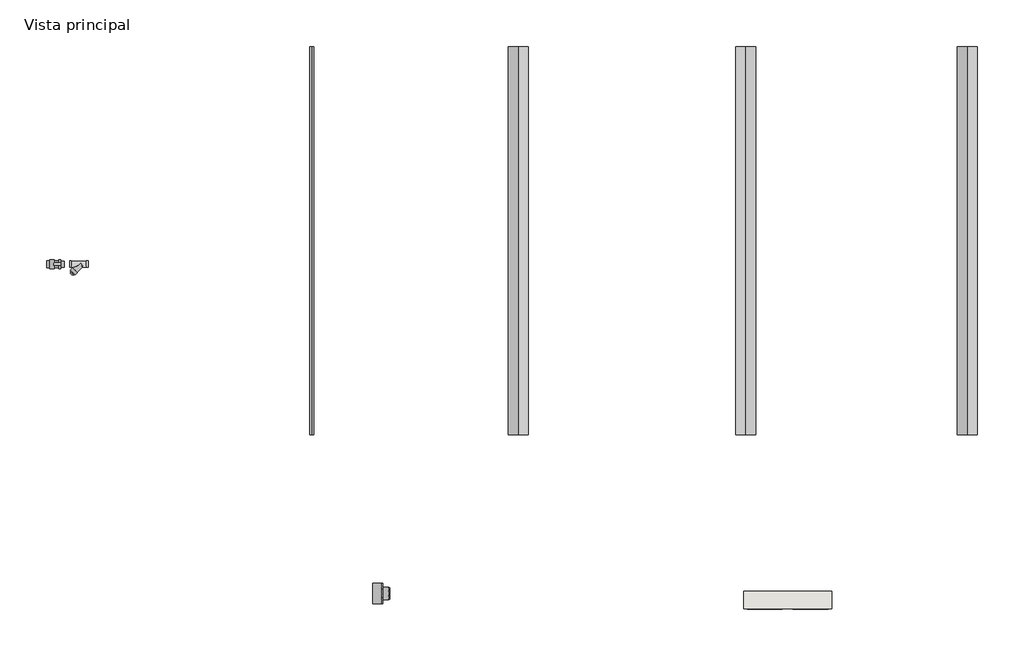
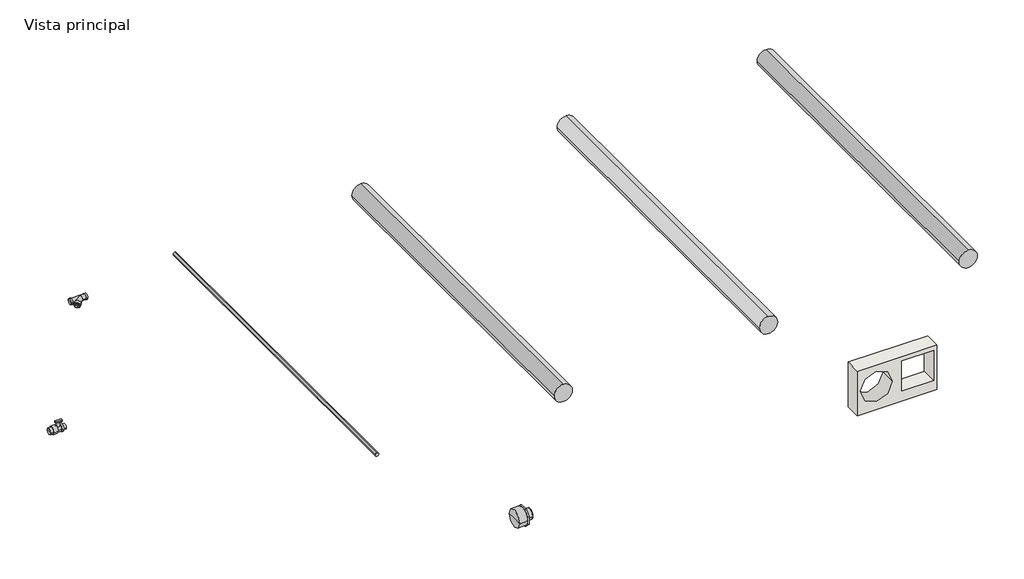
# One storey, incomplete: 4 pipe fittings, 4 pipe segments, 1 wall.
"""IFC4 building model written with IfcOpenShell, lengths in millimetres."""

from ifc_helpers import new_model, si_unit, point, frame, frame_2d, origin, place, context, project, spatial, polyline, circle_curve, trimmed, segment, composite_curve, outline, extrude, transform, mapped, element, save
from components import familia1_21bbc39e, familia1_964c2ff3, var_b961cbb1, var_9b378b9b

model = new_model("IFC4")

# Units and contexts
model_context = context("Model", 3, world=origin())
ifc_project = project(units=[si_unit("LENGTHUNIT", "METRE", prefix="MILLI")], contexts=[model_context])

# Site, building, storey
site = spatial("IfcSite", under=ifc_project)
building = spatial("IfcBuilding", under=site)
storey = spatial("IfcBuildingStorey", under=building, Name="Vista principal", Elevation=0.0)

# Pipe fittings
placement = place(None, origin())
familia1_shape = familia1_21bbc39e(model_context)
element("IfcPipeFitting", 1, ObjectType="AmancoWavin_Unionesdetubería_AguaPotableZNoUsarMulticonectorTanque : Familia1", at=placement, inside=storey, context=model_context, shape_type="MappedRepresentation", body=[
    mapped(familia1_shape, transform((-2490.847276, 159.7071053, 94.0), x_axis=(1.0, 0.0, 0.0), y_axis=(0.0, 1.0, 0.0), z_axis=(0.0, 0.0, 1.0))),
])
familia1_2_shape = familia1_964c2ff3(model_context)
element("IfcPipeFitting", 2, ObjectType="AmancoWavin_Unionesdetubería_AguaPotableZNoUsarFiltroTanque : Familia1", at=placement, inside=storey, context=model_context, shape_type="MappedRepresentation", body=[
    mapped(familia1_2_shape, transform((-2350.847276, 159.7071053, 910.65), x_axis=(-1.0, 0.0, 0.0), y_axis=(0.0, -1.0, 0.0), z_axis=(0.0, 0.0, 1.0))),
])
var_shape = var_b961cbb1(model_context)
element("IfcPipeFitting", 3, ObjectType="AmancoWavin_Unionesdetubería_AguaPotableZNoUsarReducer : Var.", at=placement, inside=storey, context=model_context, shape_type="MappedRepresentation", body=[
    mapped(var_shape, transform((-699.7544034, -1707.6024211, 1.0), x_axis=(1.0, 0.0, 0.0), y_axis=(0.0, -1.0, 0.0), z_axis=(0.0, 0.0, -1.0))),
])
var_2_shape = var_9b378b9b(model_context)
element("IfcPipeFitting", 4, ObjectType="AmancoWavin_Unionesdetubería_AguaPotableZNoUsarReducer : Var.", at=placement, inside=storey, context=model_context, shape_type="MappedRepresentation", body=[
    mapped(var_2_shape, transform((-640.9244034, -1707.6024211, 1.0), x_axis=(1.0, 0.0, 0.0), y_axis=(0.0, -1.0, 0.0), z_axis=(0.0, 0.0, -1.0))),
])

# Pipe segments
element("IfcPipeSegment", 5, ObjectType="AmancoWavin_Tuberias_AguaPotablePVC_SDR13.5", at=placement, inside=storey, context=model_context, shape_type="SweptSolid", body=[
    extrude(outline(composite_curve([segment(trimmed(circle_curve(frame_2d((1.0, -1044.7270031)), 10.715625), [point((1.0, -1055.4426281))], [point((-9.715625, -1044.7270031))], False, "CARTESIAN"), True, "CONTINUOUS"), segment(trimmed(circle_curve(frame_2d((1.0, -1044.7270031)), 10.715625), [point((-9.715625, -1044.7270031))], [point((1.0, -1034.0113781))], False, "CARTESIAN"), True, "CONTINUOUS"), segment(trimmed(circle_curve(frame_2d((1.0, -1044.7270031)), 10.715625), [point((1.0, -1034.0113781))], [point((11.715625, -1044.7270031))], False, "CARTESIAN"), True, "CONTINUOUS"), segment(trimmed(circle_curve(frame_2d((1.0, -1044.7270031)), 10.715625), [point((11.715625, -1044.7270031))], [point((1.0, -1055.4426281))], False, "CARTESIAN"), True, "CONTINUOUS")], self_intersect=False)), frame((0.0, -806.91391, 0.0), z_axis=(0.0, 1.0, 0.0), x_axis=(0.0, 0.0, 1.0)), (0.0, 0.0, 1.0), 2200.0),
])
element("IfcPipeSegment", 6, ObjectType="AmancoWavin_Tuberias_AguaPotablePVC_SDR26", at=placement, inside=storey, context=model_context, shape_type="SweptSolid", body=[
    extrude(outline(composite_curve([segment(trimmed(circle_curve(frame_2d((1.0, 2671.9971573)), 57.15), [point((1.0, 2614.8471573))], [point((-56.15, 2671.9971573))], False, "CARTESIAN"), True, "CONTINUOUS"), segment(trimmed(circle_curve(frame_2d((1.0, 2671.9971573)), 57.15), [point((-56.15, 2671.9971573))], [point((1.0, 2729.1471573))], False, "CARTESIAN"), True, "CONTINUOUS"), segment(trimmed(circle_curve(frame_2d((1.0, 2671.9971573)), 57.15), [point((1.0, 2729.1471573))], [point((58.15, 2671.9971573))], False, "CARTESIAN"), True, "CONTINUOUS"), segment(trimmed(circle_curve(frame_2d((1.0, 2671.9971573)), 57.15), [point((58.15, 2671.9971573))], [point((1.0, 2614.8471573))], False, "CARTESIAN"), True, "CONTINUOUS")], self_intersect=False)), frame((0.0, -806.91391, 0.0), z_axis=(0.0, 1.0, 0.0), x_axis=(0.0, 0.0, 1.0)), (0.0, 0.0, 1.0), 2200.0),
])
element("IfcPipeSegment", 7, ObjectType="AmancoWavin_Tuberias_AguaPotablePVC_SDR17", at=placement, inside=storey, context=model_context, shape_type="SweptSolid", body=[
    extrude(outline(composite_curve([segment(trimmed(circle_curve(frame_2d((0.0, 125.6156672)), 57.15), [point((0.0, 68.4656672))], [point((-57.15, 125.6156672))], False, "CARTESIAN"), True, "CONTINUOUS"), segment(trimmed(circle_curve(frame_2d((0.0, 125.6156672)), 57.15), [point((-57.15, 125.6156672))], [point((0.0, 182.7656672))], False, "CARTESIAN"), True, "CONTINUOUS"), segment(trimmed(circle_curve(frame_2d((0.0, 125.6156672)), 57.15), [point((0.0, 182.7656672))], [point((57.15, 125.6156672))], False, "CARTESIAN"), True, "CONTINUOUS"), segment(trimmed(circle_curve(frame_2d((0.0, 125.6156672)), 57.15), [point((57.15, 125.6156672))], [point((0.0, 68.4656672))], False, "CARTESIAN"), True, "CONTINUOUS")], self_intersect=False)), frame((0.0, -806.91391, 0.0), z_axis=(0.0, 1.0, 0.0), x_axis=(0.0, 0.0, 1.0)), (0.0, 0.0, 1.0), 2200.0),
])
element("IfcPipeSegment", 8, ObjectType="AmancoWavin_Tuberias_AguaPotablePVC_SDR21", at=placement, inside=storey, context=model_context, shape_type="SweptSolid", body=[
    extrude(outline(composite_curve([segment(trimmed(circle_curve(frame_2d((1.0, 1415.9583375)), 57.15), [point((1.0, 1473.1083375))], [point((58.15, 1415.9583375))], False, "CARTESIAN"), True, "CONTINUOUS"), segment(trimmed(circle_curve(frame_2d((1.0, 1415.9583375)), 57.15), [point((58.15, 1415.9583375))], [point((1.0, 1358.8083375))], False, "CARTESIAN"), True, "CONTINUOUS"), segment(trimmed(circle_curve(frame_2d((1.0, 1415.9583375)), 57.15), [point((1.0, 1358.8083375))], [point((-56.15, 1415.9583375))], False, "CARTESIAN"), True, "CONTINUOUS"), segment(trimmed(circle_curve(frame_2d((1.0, 1415.9583375)), 57.15), [point((-56.15, 1415.9583375))], [point((1.0, 1473.1083375))], False, "CARTESIAN"), True, "CONTINUOUS")], self_intersect=False)), frame((0.0, -806.91391, 0.0), z_axis=(0.0, 1.0, 0.0), x_axis=(0.0, 0.0, 1.0)), (0.0, 0.0, 1.0), 2200.0),
])

# Wall
element("IfcWall", 9, ObjectType="Wall 1", at=placement, inside=storey, context=model_context, shape_type="SweptSolid", body=[
    extrude(outline(polyline([(0.0, 1403.0201463), (0.0, 1903.0201463), (296.5968372, 1903.0201463), (296.5968372, 1403.0201463), (0.0, 1403.0201463)]), holes=[composite_curve([segment(trimmed(circle_curve(frame_2d((154.4282969, 1523.0201463)), 100.0), [point((154.4282969, 1623.0201463))], [point((154.4282969, 1423.0201463))], True, "CARTESIAN"), True, "CONTINUOUS"), segment(trimmed(circle_curve(frame_2d((154.4282969, 1523.0201463)), 100.0), [point((154.4282969, 1423.0201463))], [point((154.4282969, 1623.0201463))], True, "CARTESIAN"), True, "CONTINUOUS")], self_intersect=False), polyline([(66.4896004, 1883.0201463), (66.4896004, 1683.0201463), (266.4896004, 1683.0201463), (266.4896004, 1883.0201463), (66.4896004, 1883.0201463)])]), frame((0.0, -1795.2311416, 0.0), z_axis=(0.0, 1.0, 0.0), x_axis=(0.0, 0.0, 1.0)), (0.0, 0.0, 1.0), 100.0),
])

save(model, "model.ifc")
